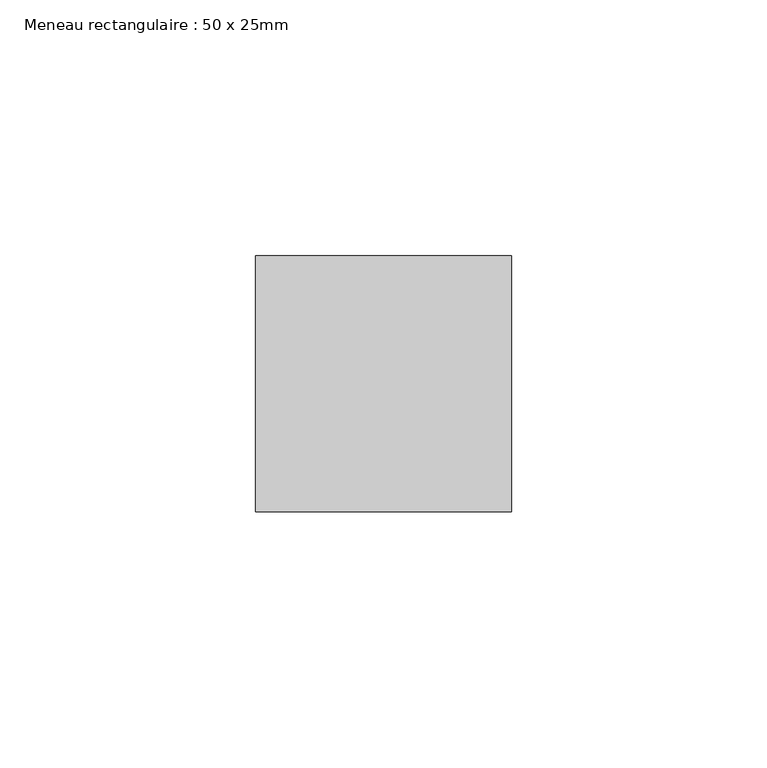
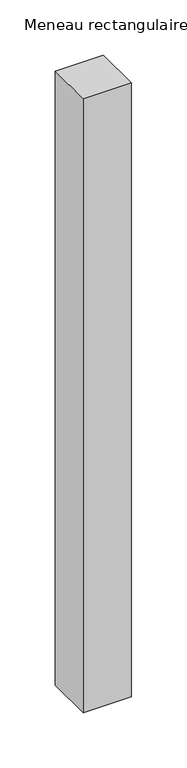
"""IFC4 building model written with IfcOpenShell, lengths in millimetres: member geometry, Meneau rectangulaire : 50 x 25mm."""

from ifc_helpers import new_model, si_unit, frame, origin, place, context, project, spatial, polyline, outline, extrude, source, transform, mapped, element, save


def meneau_rectangulaire_50_x_25mm_5ce85d0f(model_context):
    return source(origin(), model_context, "Body", "SweptSolid", [
        extrude(outline(polyline([(0.0, 50.0), (0.0, 0.0), (-50.0, 0.0), (-50.0, 50.0), (0.0, 50.0)])), frame((0.0, 0.0, -676.1344208), z_axis=(0.0, 0.0, 1.0), x_axis=(1.0, 0.0, 0.0)), (0.0, 0.0, 1.0), 676.1344208),
    ])


if __name__ == "__main__":
    model = new_model("IFC4")
    model_context = context("Model", 3, world=origin())
    ifc_project = project(units=[si_unit("LENGTHUNIT", "METRE", prefix="MILLI")], contexts=[model_context])
    site = spatial("IfcSite", under=ifc_project)
    building = spatial("IfcBuilding", under=site)
    placement = place(None, origin())
    meneau_rectangulaire_50_x_25mm_shape = meneau_rectangulaire_50_x_25mm_5ce85d0f(model_context)
    element("IfcMember", 1, ObjectType="Meneau rectangulaire : 50 x 25mm", at=placement, inside=building, context=model_context, shape_type="MappedRepresentation", body=[
        mapped(meneau_rectangulaire_50_x_25mm_shape, transform((0.0, 0.0, 0.0), x_axis=(1.0, 0.0, 0.0), y_axis=(0.0, 1.0, 0.0), z_axis=(0.0, 0.0, 1.0))),
    ])
    save(model, "model.ifc")
